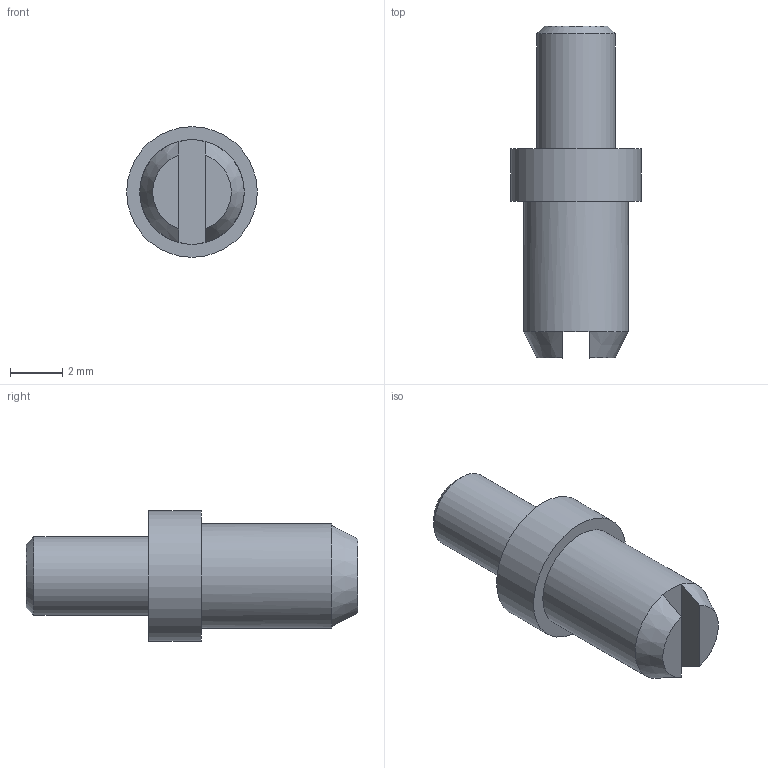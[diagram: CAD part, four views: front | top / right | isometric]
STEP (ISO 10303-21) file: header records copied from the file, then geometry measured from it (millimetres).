
FILE_DESCRIPTION(/* description */ ('','CAx-IF Rec.Pracs.---Representation and Presentation of Product Manufacturing Information (PMI)---4.0---2014-10-13'),/* implementation_level */ '2;1');
FILE_NAME(/* name */ 'E:\CAMTEC_2020_Pack and Go\Subrack_2U\2051036002.stp',/* time_stamp */ '2020-09-21T15:00:17+02:00',/* author */ ('rryba'),/* organization */ (''),/* preprocessor_version */ 'ST-DEVELOPER v18.1',/* originating_system */ 'Autodesk Inventor 2021',/* authorisation */ '');
FILE_SCHEMA (('AP242_MANAGED_MODEL_BASED_3D_ENGINEERING_MIM_LF { 1 0 10303 442 1 1 4 }'));
Length unit declared in the file: millimetre
Products named in the file (1): 2051036002
Bounding box: 5 x 12.7 x 5 mm (x, y, z)
Volume: 141.2 mm3; surface area: 188.3 mm2
Topology: 1 solids, 1 shells, 14 faces, 38 edges, 40 vertices
Faces by surface type: plane 8, cone 3, cylinder 3
Full cylindrical faces by diameter (mm): 3 x1, 4 x1, 5 x1
Entity records: 450 total; most frequent: CARTESIAN_POINT 89, DIRECTION 66, ORIENTED_EDGE 52, AXIS2_PLACEMENT_3D 29, EDGE_CURVE 26, EDGE_LOOP 16, VERTEX_POINT 16, STYLED_ITEM 14
